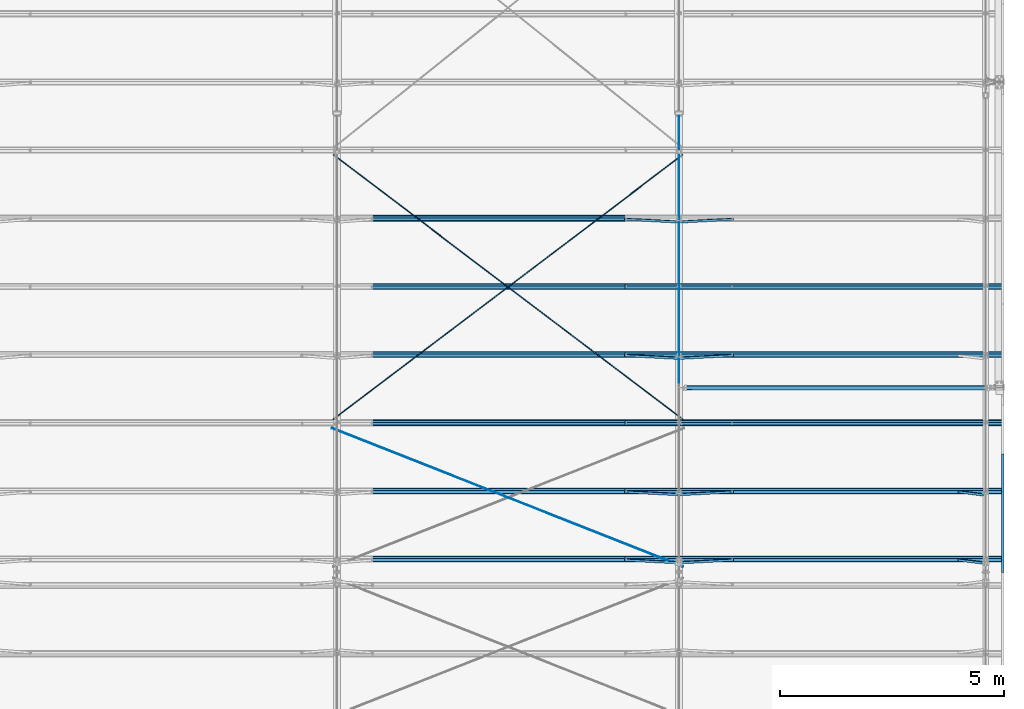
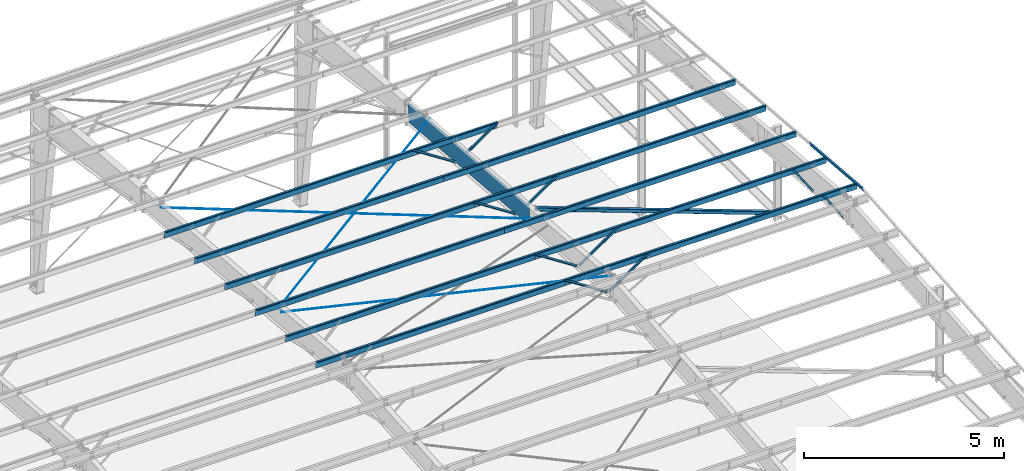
# One storey, part 19 of 185: 16 beams, 11 members, 27 elements without a shape of their own.
"""IFC2X3 building model written with IfcOpenShell, lengths in millimetres."""

import ifcopenshell
import ifcopenshell.guid

model = None  # the IFC model being written
_history = None  # IfcOwnerHistory: only IFC2X3 demands one
_inside = {}  # id of a spatial element -> (the spatial element, [elements in it])
_under = {}  # id of a project, library or spatial element -> (it, [spatial elements below it])
_declared = {}  # id of a project -> (the project, [libraries it declares])
_typed = {}  # id of a type object -> (the type object, [elements of that type])
_made_of = {}  # id of a material, layer set ... -> (it, [elements and type objects made of it])


def new_model(schema):
    """Start an empty IFC model of exactly this schema.

    Asked for "IFC4X3", IfcOpenShell would pick the latest addendum, in which some entities
    have other attributes; the version numbers below select the first issue.
    IFC2X3 requires an IfcOwnerHistory on every rooted entity: one is made here for all.
    """
    global model, _history
    if schema == "IFC4X3":
        model = ifcopenshell.file(schema_version=(4, 3, 0, 0))
    else:
        model = ifcopenshell.file(schema=schema)
    _inside.clear()
    _under.clear()
    _declared.clear()
    _typed.clear()
    _made_of.clear()
    _history = None
    if model.schema == "IFC2X3":
        org = make("IfcOrganization", Name="unknown")
        user = make(
            "IfcPersonAndOrganization",
            ThePerson=make("IfcPerson", FamilyName="unknown"),
            TheOrganization=org,
        )
        app = make(
            "IfcApplication",
            ApplicationDeveloper=org,
            Version="unknown",
            ApplicationFullName="unknown",
            ApplicationIdentifier="unknown",
        )
        _history = make(
            "IfcOwnerHistory",
            OwningUser=user,
            OwningApplication=app,
            ChangeAction="ADDED",
            CreationDate=0,
        )
    return model


def make(cls, **values):
    """One entity of the class cls with the attributes given. An attribute that is None is left unset."""
    return model.create_entity(
        cls, **{name: value for name, value in values.items() if value is not None}
    )


def rooted(cls, **values):
    """An entity with a GlobalId (a new one), such as an element, a storey or a relation."""
    return make(cls, GlobalId=ifcopenshell.guid.new(), OwnerHistory=_history, **values)


def si_unit(unit_type, name, prefix=None):
    """IfcSIUnit, for example si_unit("LENGTHUNIT", "METRE", prefix="MILLI")."""
    return make("IfcSIUnit", UnitType=unit_type, Prefix=prefix, Name=name)


def assignment(units):
    """IfcUnitAssignment: the units of a project."""
    return None if units is None else make("IfcUnitAssignment", Units=units)


def point(xyz):
    """IfcCartesianPoint."""
    return None if xyz is None else make("IfcCartesianPoint", Coordinates=xyz)


def direction(xyz):
    """IfcDirection."""
    return None if xyz is None else make("IfcDirection", DirectionRatios=xyz)


def frame(location, z_axis=None, x_axis=None):
    """IfcAxis2Placement3D, a coordinate frame: its origin and axes. An axis left out is left unset."""
    return make(
        "IfcAxis2Placement3D",
        Location=point(location),
        Axis=direction(z_axis),
        RefDirection=direction(x_axis),
    )


def frame_2d(location, x_axis=None):
    """IfcAxis2Placement2D, a coordinate frame in the plane: its origin and x axis."""
    return make(
        "IfcAxis2Placement2D", Location=point(location), RefDirection=direction(x_axis)
    )


def origin_with_axes():
    """The frame at (0, 0, 0) with the z axis (0, 0, 1) and the x axis (1, 0, 0) written out."""
    return frame((0.0, 0.0, 0.0), z_axis=(0.0, 0.0, 1.0), x_axis=(1.0, 0.0, 0.0))


def origin_2d_with_axis():
    """The frame at (0, 0) in the plane with the x axis (1, 0) written out."""
    return frame_2d((0.0, 0.0), x_axis=(1.0, 0.0))


def place(relative_to, where):
    """IfcLocalPlacement: puts the frame where relative to a parent placement (None: the world)."""
    return make(
        "IfcLocalPlacement", PlacementRelTo=relative_to, RelativePlacement=where
    )


def context(
    kind, dimensions, precision=None, world=None, true_north=None, identifier=None
):
    """IfcGeometricRepresentationContext, for example the 3D "Model" context."""
    return make(
        "IfcGeometricRepresentationContext",
        ContextIdentifier=identifier,
        ContextType=kind,
        CoordinateSpaceDimension=dimensions,
        Precision=precision,
        WorldCoordinateSystem=world,
        TrueNorth=true_north,
    )


def subcontext(parent, identifier, kind, view, scale=None):
    """IfcGeometricRepresentationSubContext, for example "Body" below "Model"."""
    return make(
        "IfcGeometricRepresentationSubContext",
        ContextIdentifier=identifier,
        ContextType=kind,
        ParentContext=parent,
        TargetScale=scale,
        TargetView=view,
    )


def project(units=None, contexts=None):
    """IfcProject with its units and contexts."""
    return rooted(
        "IfcProject",
        Name="project",
        RepresentationContexts=contexts,
        UnitsInContext=assignment(units),
    )


def spatial(cls, under=None, at=None, **own):
    """A site, building, storey or space (cls), placed at a placement, below another one or the project."""
    s = rooted(cls, ObjectPlacement=at, **own)
    if under is not None:
        _under.setdefault(under.id(), (under, []))[1].append(s)
    return s


def polyline(points):
    """IfcPolyline through the points."""
    return make("IfcPolyline", Points=[point(p) for p in points])


def profile(cls, at=None, kind="AREA", **sizes):
    """A parametric profile (cls). Its sizes go by their IFC names, for example OverallWidth=200.0."""
    return make(cls, ProfileType=kind, Position=at, **sizes)


def rectangle(**sizes):
    """IfcRectangleProfileDef."""
    return profile("IfcRectangleProfileDef", **sizes)


def hollow_rectangle(**sizes):
    """IfcRectangleHollowProfileDef."""
    return profile("IfcRectangleHollowProfileDef", **sizes)


def circle(**sizes):
    """IfcCircleProfileDef."""
    return profile("IfcCircleProfileDef", **sizes)


def outline(outer, holes=None, kind="AREA"):
    """IfcArbitraryClosedProfileDef: a profile drawn as a closed curve; with holes, ...WithVoids."""
    if holes is None:
        return make("IfcArbitraryClosedProfileDef", ProfileType=kind, OuterCurve=outer)
    return make(
        "IfcArbitraryProfileDefWithVoids",
        ProfileType=kind,
        OuterCurve=outer,
        InnerCurves=holes,
    )


def extrude(swept, where, along, depth):
    """IfcExtrudedAreaSolid: the profile swept, set in the frame where, extruded along a direction by depth."""
    return make(
        "IfcExtrudedAreaSolid",
        SweptArea=swept,
        Position=where,
        ExtrudedDirection=direction(along),
        Depth=depth,
    )


def clip(a, b, op="DIFFERENCE"):
    """IfcBooleanClippingResult: the solid a cut by the half space b."""
    return make(
        "IfcBooleanClippingResult", Operator=op, FirstOperand=a, SecondOperand=b
    )


def halfspace(plane, agree):
    """IfcHalfSpaceSolid: all space on one side of the plane z = 0 of the frame plane."""
    return make(
        "IfcHalfSpaceSolid",
        BaseSurface=make("IfcPlane", Position=plane),
        AgreementFlag=agree,
    )


def shape(context_of_items, identifier, shape_type, items):
    """IfcShapeRepresentation: the items that make up one representation, for example the "Body"."""
    return make(
        "IfcShapeRepresentation",
        ContextOfItems=context_of_items,
        RepresentationIdentifier=identifier,
        RepresentationType=shape_type,
        Items=items,
    )


def material(Name=None, Category=None):
    """IfcMaterial."""
    return make("IfcMaterial", Name=Name, Category=Category)


def made_of(thing, what):
    """Note that an element or type object is made of a material, layer set ...; save() writes the relation."""
    if what is not None:
        _made_of.setdefault(what.id(), (what, []))[1].append(thing)
    return thing


def type_object(cls, material=None, **own):
    """A type object (cls), such as IfcWallType, which elements share."""
    return made_of(rooted(cls, **own), material)


def element(
    cls,
    number,
    at=None,
    inside=None,
    cuts=None,
    type_object=None,
    material=None,
    context=None,
    identifier="Body",
    shape_type=None,
    held_by="IfcProductDefinitionShape",
    body=None,
    shapes=None,
    **own,
):
    """One element of the class cls, such as IfcWall. Its Tag is "e" and its number.

    at: its placement. inside: the storey or other place that contains it. cuts: it is an
    opening in that element (IfcRelVoidsElement). A single representation is given by context,
    identifier, shape_type and body (its items); several are given by shapes. held_by: the class
    of the entity that holds the representations. save() writes the other relations.
    """
    e = rooted(cls, Tag="e%d" % number, ObjectPlacement=at, **own)
    if body is not None:
        shapes = [shape(context, identifier, shape_type, body)]
    if shapes is not None:
        e.Representation = make(held_by, Representations=shapes)
    if inside is not None:
        _inside.setdefault(inside.id(), (inside, []))[1].append(e)
    if cuts is not None:
        rooted(
            "IfcRelVoidsElement", RelatingBuildingElement=cuts, RelatedOpeningElement=e
        )
    if type_object is not None:
        _typed.setdefault(type_object.id(), (type_object, []))[1].append(e)
    return made_of(e, material)


def aggregate(whole, parts):
    """IfcRelAggregates: a whole, such as a stair, and the parts it consists of."""
    return rooted("IfcRelAggregates", RelatingObject=whole, RelatedObjects=parts)


def save(model, path):
    """Write the relations noted so far, then the file.

    IfcRelAggregates (storeys below a building ...), IfcRelContainedInSpatialStructure (elements
    in a storey), IfcRelDefinesByType, IfcRelAssociatesMaterial and IfcRelDeclares: one each for
    every whole, place, type object, material and project.
    """
    for whole, parts in _under.values():
        aggregate(whole, parts)
    for where, things in _inside.values():
        rooted(
            "IfcRelContainedInSpatialStructure",
            RelatedElements=things,
            RelatingStructure=where,
        )
    for kind, things in _typed.values():
        rooted("IfcRelDefinesByType", RelatedObjects=things, RelatingType=kind)
    for what, things in _made_of.values():
        rooted("IfcRelAssociatesMaterial", RelatedObjects=things, RelatingMaterial=what)
    for by, libraries in _declared.values():
        rooted("IfcRelDeclares", RelatingContext=by, RelatedDefinitions=libraries)
    model.write(path)


model = new_model("IFC2X3")

# Units and contexts
model_context = context("Model", 3, precision=1e-05, world=origin_with_axes())
body_context = subcontext(model_context, "Body", "Model", "MODEL_VIEW")
ifc_project = project(units=[si_unit("LENGTHUNIT", "METRE", prefix="MILLI"), si_unit("AREAUNIT", "SQUARE_METRE"), si_unit("VOLUMEUNIT", "CUBIC_METRE"), si_unit("MASSUNIT", "GRAM", prefix="KILO"), si_unit("TIMEUNIT", "SECOND"), si_unit("PLANEANGLEUNIT", "RADIAN"), si_unit("SOLIDANGLEUNIT", "STERADIAN"), si_unit("THERMODYNAMICTEMPERATUREUNIT", "DEGREE_CELSIUS"), si_unit("LUMINOUSINTENSITYUNIT", "LUMEN")], contexts=[model_context])

# Site, building, storey
site_placement = place(None, origin_with_axes())
site = spatial("IfcSite", under=ifc_project, at=site_placement, Name="Undefined", CompositionType="ELEMENT")
building_placement = place(site_placement, origin_with_axes())
building = spatial("IfcBuilding", under=site, at=building_placement, Name="Undefined", CompositionType="ELEMENT")
storey_placement = place(building_placement, origin_with_axes())
storey = spatial("IfcBuildingStorey", under=building, at=storey_placement, Name="Undefined", CompositionType="ELEMENT", Elevation=0.0)

# Assembly, beam
assembly_1_placement = place(storey_placement, origin_with_axes())
assembly_1 = element("IfcElementAssembly", 1, at=assembly_1_placement, inside=storey, Name="Steel Assembly", AssemblyPlace="NOTDEFINED", PredefinedType="RIGID_FRAME")
ifc_material = material(Name="STEEL/55")
beam_type_1 = type_object("IfcBeamType", Name="8Z15", PredefinedType="NOTDEFINED")
beam_1_placement = place(assembly_1_placement, frame((37719.0, 23890.9879796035, 6670.13216897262), z_axis=(0.0, -0.0830454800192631, -0.996545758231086), x_axis=(-1.0, 0.0, 0.0)))
beam_1 = element("IfcBeam", 2, at=beam_1_placement, type_object=beam_type_1, material=ifc_material, Name="Purlin", ObjectType="8Z15", context=body_context, shape_type="Clipping", body=[
    clip(clip(extrude(outline(polyline([(-75.75, 87.0100021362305), (-63.5, 101.599998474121), (1.5900000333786, 101.599998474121), (1.5900000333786, -98.4199981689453), (62.0200004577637, -98.4199981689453), (73.3099975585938, -84.9700012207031), (75.7399978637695, -87.0100021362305), (63.5, -101.599998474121), (-1.5900000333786, -101.599998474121), (-1.5900000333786, 98.4199981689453), (-62.0200004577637, 98.4199981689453), (-73.3099975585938, 84.9700012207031), (-75.75, 87.0100021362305)])), frame((8420.1, 0.0, 0.0), z_axis=(-1.0, 0.0, 0.0), x_axis=(0.0, -1.0, 0.0)), (0.0, 0.0, 1.0), 9626.6), halfspace(frame((8420.1, 2.91402102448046e-09, -101.600000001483), z_axis=(-1.0, 0.0, 0.0), x_axis=(0.0, 0.0, 1.0)), True)), halfspace(frame((-1206.5, 2.91402102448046e-09, -101.600000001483), z_axis=(-1.0, 0.0, 0.0), x_axis=(0.0, 0.0, 1.0)), False)),
])
aggregate(assembly_1, [beam_1])

assembly_2_placement = place(storey_placement, origin_with_axes())
assembly_2 = element("IfcElementAssembly", 3, at=assembly_2_placement, inside=storey, Name="Steel Assembly", AssemblyPlace="NOTDEFINED", PredefinedType="RIGID_FRAME")
beam_2_placement = place(assembly_2_placement, frame((37719.0, 22372.2522440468, 6796.69348052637), z_axis=(0.0, -0.0830454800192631, -0.996545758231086), x_axis=(-1.0, 0.0, 0.0)))
beam_2 = element("IfcBeam", 4, at=beam_2_placement, type_object=beam_type_1, material=ifc_material, Name="Purlin", ObjectType="8Z15", context=body_context, shape_type="Clipping", body=[
    clip(clip(extrude(outline(polyline([(-75.75, 87.0100021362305), (-63.5, 101.599998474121), (1.5900000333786, 101.599998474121), (1.5900000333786, -98.4199981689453), (62.0200004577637, -98.4199981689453), (73.3099975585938, -84.9700012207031), (75.7399978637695, -87.0100021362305), (63.5, -101.599998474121), (-1.5900000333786, -101.599998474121), (-1.5900000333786, 98.4199981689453), (-62.0200004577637, 98.4199981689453), (-73.3099975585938, 84.9700012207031), (-75.75, 87.0100021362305)])), frame((8420.1, 0.0, 0.0), z_axis=(-1.0, 0.0, 0.0), x_axis=(0.0, -1.0, 0.0)), (0.0, 0.0, 1.0), 9626.6), halfspace(frame((8420.1, 2.91402102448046e-09, -101.600000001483), z_axis=(-1.0, 0.0, 0.0), x_axis=(0.0, 0.0, 1.0)), True)), halfspace(frame((-1206.5, 2.91402102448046e-09, -101.600000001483), z_axis=(-1.0, 0.0, 0.0), x_axis=(0.0, 0.0, 1.0)), False)),
])
aggregate(assembly_2, [beam_2])

assembly_3_placement = place(storey_placement, origin_with_axes())
assembly_3 = element("IfcElementAssembly", 5, at=assembly_3_placement, inside=storey, Name="Steel Assembly", AssemblyPlace="NOTDEFINED", PredefinedType="RIGID_FRAME")
beam_3_placement = place(assembly_3_placement, frame((37719.0, 20853.51650849, 6923.25479208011), z_axis=(0.0, -0.0830454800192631, -0.996545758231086), x_axis=(-1.0, 0.0, 0.0)))
beam_3 = element("IfcBeam", 6, at=beam_3_placement, type_object=beam_type_1, material=ifc_material, Name="Purlin", ObjectType="8Z15", context=body_context, shape_type="Clipping", body=[
    clip(clip(extrude(outline(polyline([(-75.75, 87.0100021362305), (-63.5, 101.599998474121), (1.5900000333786, 101.599998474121), (1.5900000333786, -98.4199981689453), (62.0200004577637, -98.4199981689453), (73.3099975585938, -84.9700012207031), (75.7399978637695, -87.0100021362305), (63.5, -101.599998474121), (-1.5900000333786, -101.599998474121), (-1.5900000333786, 98.4199981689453), (-62.0200004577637, 98.4199981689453), (-73.3099975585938, 84.9700012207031), (-75.75, 87.0100021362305)])), frame((8420.1, 0.0, 0.0), z_axis=(-1.0, 0.0, 0.0), x_axis=(0.0, -1.0, 0.0)), (0.0, 0.0, 1.0), 9626.6), halfspace(frame((8420.1, 2.91402102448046e-09, -101.600000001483), z_axis=(-1.0, 0.0, 0.0), x_axis=(0.0, 0.0, 1.0)), True)), halfspace(frame((-1206.5, 2.91402102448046e-09, -101.600000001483), z_axis=(-1.0, 0.0, 0.0), x_axis=(0.0, 0.0, 1.0)), False)),
])
aggregate(assembly_3, [beam_3])

assembly_4_placement = place(storey_placement, origin_with_axes())
assembly_4 = element("IfcElementAssembly", 7, at=assembly_4_placement, inside=storey, Name="Steel Assembly", AssemblyPlace="NOTDEFINED", PredefinedType="RIGID_FRAME")
beam_4_placement = place(assembly_4_placement, frame((37719.0, 19334.7807729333, 7049.81610363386), z_axis=(0.0, -0.0830454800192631, -0.996545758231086), x_axis=(-1.0, 0.0, 0.0)))
beam_4 = element("IfcBeam", 8, at=beam_4_placement, type_object=beam_type_1, material=ifc_material, Name="Purlin", ObjectType="8Z15", context=body_context, shape_type="Clipping", body=[
    clip(clip(extrude(outline(polyline([(-75.75, 87.0100021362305), (-63.5, 101.599998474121), (1.5900000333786, 101.599998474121), (1.5900000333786, -98.4199981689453), (62.0200004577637, -98.4199981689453), (73.3099975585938, -84.9700012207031), (75.7399978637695, -87.0100021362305), (63.5, -101.599998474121), (-1.5900000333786, -101.599998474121), (-1.5900000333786, 98.4199981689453), (-62.0200004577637, 98.4199981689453), (-73.3099975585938, 84.9700012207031), (-75.75, 87.0100021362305)])), frame((8420.1, 0.0, 0.0), z_axis=(-1.0, 0.0, 0.0), x_axis=(0.0, -1.0, 0.0)), (0.0, 0.0, 1.0), 9626.6), halfspace(frame((8420.1, 2.91402102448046e-09, -101.600000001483), z_axis=(-1.0, 0.0, 0.0), x_axis=(0.0, 0.0, 1.0)), True)), halfspace(frame((-1206.5, 2.91402102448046e-09, -101.600000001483), z_axis=(-1.0, 0.0, 0.0), x_axis=(0.0, 0.0, 1.0)), False)),
])
aggregate(assembly_4, [beam_4])

assembly_5_placement = place(storey_placement, origin_with_axes())
assembly_5 = element("IfcElementAssembly", 9, at=assembly_5_placement, inside=storey, Name="Steel Assembly", AssemblyPlace="NOTDEFINED", PredefinedType="RIGID_FRAME")
beam_5_placement = place(assembly_5_placement, frame((37719.0, 17816.0450373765, 7176.3774151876), z_axis=(0.0, -0.0830454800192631, -0.996545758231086), x_axis=(-1.0, 0.0, 0.0)))
beam_5 = element("IfcBeam", 10, at=beam_5_placement, type_object=beam_type_1, material=ifc_material, Name="Purlin", ObjectType="8Z15", context=body_context, shape_type="Clipping", body=[
    clip(clip(extrude(outline(polyline([(-75.75, 87.0100021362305), (-63.5, 101.599998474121), (1.5900000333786, 101.599998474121), (1.5900000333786, -98.4199981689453), (62.0200004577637, -98.4199981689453), (73.3099975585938, -84.9700012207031), (75.7399978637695, -87.0100021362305), (63.5, -101.599998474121), (-1.5900000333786, -101.599998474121), (-1.5900000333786, 98.4199981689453), (-62.0200004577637, 98.4199981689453), (-73.3099975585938, 84.9700012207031), (-75.75, 87.0100021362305)])), frame((8420.1, 0.0, 0.0), z_axis=(-1.0, 0.0, 0.0), x_axis=(0.0, -1.0, 0.0)), (0.0, 0.0, 1.0), 9626.6), halfspace(frame((8420.1, 2.91402102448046e-09, -101.600000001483), z_axis=(-1.0, 0.0, 0.0), x_axis=(0.0, 0.0, 1.0)), True)), halfspace(frame((-1206.5, 2.91402102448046e-09, -101.600000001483), z_axis=(-1.0, 0.0, 0.0), x_axis=(0.0, 0.0, 1.0)), False)),
])
aggregate(assembly_5, [beam_5])

assembly_6_placement = place(storey_placement, origin_with_axes())
assembly_6 = element("IfcElementAssembly", 11, at=assembly_6_placement, inside=storey, Name="Steel Assembly", AssemblyPlace="NOTDEFINED", PredefinedType="RIGID_FRAME")
beam_6_placement = place(assembly_6_placement, frame((37719.0, 16297.3093018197, 7302.93872674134), z_axis=(0.0, -0.0830454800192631, -0.996545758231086), x_axis=(-1.0, 0.0, 0.0)))
beam_6 = element("IfcBeam", 12, at=beam_6_placement, type_object=beam_type_1, material=ifc_material, Name="Purlin", ObjectType="8Z15", context=body_context, shape_type="Clipping", body=[
    clip(clip(extrude(outline(polyline([(-75.75, 87.0100021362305), (-63.5, 101.599998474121), (1.5900000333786, 101.599998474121), (1.5900000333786, -98.4199981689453), (62.0200004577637, -98.4199981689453), (73.3099975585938, -84.9700012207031), (75.7399978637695, -87.0100021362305), (63.5, -101.599998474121), (-1.5900000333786, -101.599998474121), (-1.5900000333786, 98.4199981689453), (-62.0200004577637, 98.4199981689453), (-73.3099975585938, 84.9700012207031), (-75.75, 87.0100021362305)])), frame((8420.1, 0.0, 0.0), z_axis=(-1.0, 0.0, 0.0), x_axis=(0.0, -1.0, 0.0)), (0.0, 0.0, 1.0), 9626.6), halfspace(frame((8420.1, 2.91402102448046e-09, -101.600000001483), z_axis=(-1.0, 0.0, 0.0), x_axis=(0.0, 0.0, 1.0)), True)), halfspace(frame((-1206.5, 2.91402102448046e-09, -101.600000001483), z_axis=(-1.0, 0.0, 0.0), x_axis=(0.0, 0.0, 1.0)), False)),
])
aggregate(assembly_6, [beam_6])

# Assembly, member
assembly_7_placement = place(storey_placement, origin_with_axes())
assembly_7 = element("IfcElementAssembly", 13, at=assembly_7_placement, inside=storey, Name="Steel Assembly", AssemblyPlace="NOTDEFINED", PredefinedType="RIGID_FRAME")
member_type_1 = type_object("IfcMemberType", Name="HSS4X4X1/4", PredefinedType="NOTDEFINED")
member_1_placement = place(assembly_7_placement, frame((44609.0741626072, 20110.8686444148, 4286.09659466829), z_axis=(0.344537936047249, -0.000139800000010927, 0.938772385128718), x_axis=(-0.938772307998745, 0.000380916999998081, 0.34453796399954)))
member_1 = element("IfcMember", 14, at=member_1_placement, type_object=member_type_1, material=ifc_material, Name="PIPE", ObjectType="HSS4X4X1/4", context=body_context, shape_type="SweptSolid", body=[
    extrude(hollow_rectangle(XDim=101.6, YDim=101.6, WallThickness=6.35, InnerFilletRadius=6.3499, OuterFilletRadius=12.6999, at=origin_2d_with_axis()), frame((7178.93714161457, -1.61829013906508e-16, -3.9851106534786e-13), z_axis=(-1.0, 0.0, 0.0), x_axis=(0.0, -1.0, 0.0)), (0.0, 0.0, 1.0), 7178.9),
])
aggregate(assembly_7, [member_1])

assembly_8_placement = place(storey_placement, origin_with_axes())
assembly_8 = element("IfcElementAssembly", 15, at=assembly_8_placement, inside=storey, Name="Steel Assembly", AssemblyPlace="NOTDEFINED", PredefinedType="RIGID_FRAME")
member_type_2 = type_object("IfcMemberType", Name="FB-", PredefinedType="NOTDEFINED")
member_2_placement = place(assembly_8_placement, frame((37757.0873204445, 23833.3687176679, 5978.70102520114), z_axis=(-0.530152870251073, 0.0704144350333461, 0.844973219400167), x_axis=(0.847902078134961, 0.0440268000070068, 0.528321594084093)))
member_2 = element("IfcMember", 16, at=member_2_placement, type_object=member_type_2, material=ifc_material, Name="2X2 FLANGE BRACE X 48", ObjectType="FB-", context=body_context, shape_type="SweptSolid", body=[
    extrude(outline(polyline([(1.5900000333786, 1.59000003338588), (50.7999992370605, 1.59000003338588), (50.7999992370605, 7.27595761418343e-12), (0.0, 0.0), (0.0, 50.7999992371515), (1.5900000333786, 50.7999992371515), (1.5900000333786, 1.59000003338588)])), frame((1389.32938756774, -1.81898940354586e-12, 7.71232737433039e-14), z_axis=(-1.0, 0.0, 0.0), x_axis=(0.0, -1.0, 0.0)), (0.0, 0.0, 1.0), 1389.3),
])
aggregate(assembly_8, [member_2])

assembly_9_placement = place(storey_placement, origin_with_axes())
assembly_9 = element("IfcElementAssembly", 17, at=assembly_9_placement, inside=storey, Name="Steel Assembly", AssemblyPlace="NOTDEFINED", PredefinedType="RIGID_FRAME")
member_3_placement = place(assembly_9_placement, frame((37757.0873204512, 20795.8972465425, 6231.82364781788), z_axis=(-0.530152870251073, 0.0704144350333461, 0.844973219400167), x_axis=(0.847902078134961, 0.0440268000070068, 0.528321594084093)))
member_3 = element("IfcMember", 18, at=member_3_placement, type_object=member_type_2, material=ifc_material, Name="2X2 FLANGE BRACE X 48", ObjectType="FB-", context=body_context, shape_type="SweptSolid", body=[
    extrude(outline(polyline([(1.5900000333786, 1.59000003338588), (50.7999992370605, 1.59000003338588), (50.7999992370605, 7.27595761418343e-12), (0.0, 0.0), (0.0, 50.7999992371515), (1.5900000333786, 50.7999992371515), (1.5900000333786, 1.59000003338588)])), frame((1389.32938756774, -1.81898940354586e-12, 7.71232737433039e-14), z_axis=(-1.0, 0.0, 0.0), x_axis=(0.0, -1.0, 0.0)), (0.0, 0.0, 1.0), 1389.3),
])
aggregate(assembly_9, [member_3])

assembly_10_placement = place(storey_placement, origin_with_axes())
assembly_10 = element("IfcElementAssembly", 19, at=assembly_10_placement, inside=storey, Name="Steel Assembly", AssemblyPlace="NOTDEFINED", PredefinedType="RIGID_FRAME")
member_4_placement = place(assembly_10_placement, frame((37757.0873204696, 17758.4257754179, 6484.94627041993), z_axis=(-0.530152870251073, 0.0704144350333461, 0.844973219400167), x_axis=(0.847902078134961, 0.0440268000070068, 0.528321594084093)))
member_4 = element("IfcMember", 20, at=member_4_placement, type_object=member_type_2, material=ifc_material, Name="2X2 FLANGE BRACE X 48", ObjectType="FB-", context=body_context, shape_type="SweptSolid", body=[
    extrude(outline(polyline([(1.5900000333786, 1.59000003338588), (50.7999992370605, 1.59000003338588), (50.7999992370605, 7.27595761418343e-12), (0.0, 0.0), (0.0, 50.7999992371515), (1.5900000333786, 50.7999992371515), (1.5900000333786, 1.59000003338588)])), frame((1389.32938756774, -1.81898940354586e-12, 7.71232737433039e-14), z_axis=(-1.0, 0.0, 0.0), x_axis=(0.0, -1.0, 0.0)), (0.0, 0.0, 1.0), 1389.3),
])
aggregate(assembly_10, [member_4])

assembly_11_placement = place(storey_placement, origin_with_axes())
assembly_11 = element("IfcElementAssembly", 21, at=assembly_11_placement, inside=storey, Name="Steel Assembly", AssemblyPlace="NOTDEFINED", PredefinedType="RIGID_FRAME")
member_5_placement = place(assembly_11_placement, frame((37757.087320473, 16239.6900398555, 6611.50758172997), z_axis=(-0.530152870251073, 0.0704144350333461, 0.844973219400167), x_axis=(0.847902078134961, 0.0440268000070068, 0.528321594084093)))
member_5 = element("IfcMember", 22, at=member_5_placement, type_object=member_type_2, material=ifc_material, Name="2X2 FLANGE BRACE X 48", ObjectType="FB-", context=body_context, shape_type="SweptSolid", body=[
    extrude(outline(polyline([(1.5900000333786, 1.59000003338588), (50.7999992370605, 1.59000003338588), (50.7999992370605, 7.27595761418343e-12), (0.0, 0.0), (0.0, 50.7999992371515), (1.5900000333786, 50.7999992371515), (1.5900000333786, 1.59000003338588)])), frame((1389.32938756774, -1.81898940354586e-12, 7.71232737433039e-14), z_axis=(-1.0, 0.0, 0.0), x_axis=(0.0, -1.0, 0.0)), (0.0, 0.0, 1.0), 1389.3),
])
aggregate(assembly_11, [member_5])

assembly_12_placement = place(storey_placement, origin_with_axes())
assembly_12 = element("IfcElementAssembly", 23, at=assembly_12_placement, inside=storey, Name="Steel Assembly", AssemblyPlace="NOTDEFINED", PredefinedType="RIGID_FRAME")
member_6_placement = place(assembly_12_placement, frame((44498.345666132, 16231.3680246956, 6511.64339957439), z_axis=(0.0, -0.996545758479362, 0.0830454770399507), x_axis=(-0.553483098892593, 0.0691652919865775, 0.82998350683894)))
member_6 = element("IfcMember", 24, at=member_6_placement, type_object=member_type_2, material=ifc_material, Name="2X2 FLANGE BRACE X 48", ObjectType="FB-", context=body_context, shape_type="SweptSolid", body=[
    extrude(outline(polyline([(1.5900000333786, 1.59000003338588), (50.7999992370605, 1.59000003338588), (50.7999992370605, 7.27595761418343e-12), (0.0, 0.0), (0.0, 50.7999992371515), (1.5900000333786, 50.7999992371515), (1.5900000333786, 1.59000003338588)])), frame((1022.90167929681, -5.11529800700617e-13, 1.83318501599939e-12), z_axis=(-1.0, 0.0, 0.0), x_axis=(0.0, -1.0, 0.0)), (0.0, 0.0, 1.0), 1022.9),
])
aggregate(assembly_12, [member_6])

assembly_13_placement = place(storey_placement, origin_with_axes())
assembly_13 = element("IfcElementAssembly", 25, at=assembly_13_placement, inside=storey, Name="Steel Assembly", AssemblyPlace="NOTDEFINED", PredefinedType="RIGID_FRAME")
member_7_placement = place(assembly_13_placement, frame((44498.3456661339, 17750.1037602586, 6385.08208826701), z_axis=(0.0, -0.996545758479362, 0.0830454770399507), x_axis=(-0.553483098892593, 0.0691652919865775, 0.82998350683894)))
member_7 = element("IfcMember", 26, at=member_7_placement, type_object=member_type_2, material=ifc_material, Name="2X2 FLANGE BRACE X 48", ObjectType="FB-", context=body_context, shape_type="SweptSolid", body=[
    extrude(outline(polyline([(1.5900000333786, 1.59000003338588), (50.7999992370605, 1.59000003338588), (50.7999992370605, 7.27595761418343e-12), (0.0, 0.0), (0.0, 50.7999992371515), (1.5900000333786, 50.7999992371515), (1.5900000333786, 1.59000003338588)])), frame((1022.90167929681, -5.11529800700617e-13, 1.83318501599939e-12), z_axis=(-1.0, 0.0, 0.0), x_axis=(0.0, -1.0, 0.0)), (0.0, 0.0, 1.0), 1022.9),
])
aggregate(assembly_13, [member_7])

assembly_14_placement = place(storey_placement, origin_with_axes())
assembly_14 = element("IfcElementAssembly", 27, at=assembly_14_placement, inside=storey, Name="Steel Assembly", AssemblyPlace="NOTDEFINED", PredefinedType="RIGID_FRAME")
member_8_placement = place(assembly_14_placement, frame((37680.9126795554, 23833.3687176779, 5978.70102520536), z_axis=(0.0, -0.996545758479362, 0.0830454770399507), x_axis=(-0.847902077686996, 0.0440267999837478, 0.52832159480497)))
member_8 = element("IfcMember", 28, at=member_8_placement, type_object=member_type_2, material=ifc_material, Name="2X2 FLANGE BRACE X 48", ObjectType="FB-", context=body_context, shape_type="SweptSolid", body=[
    extrude(outline(polyline([(1.5900000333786, 1.59000003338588), (50.7999992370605, 1.59000003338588), (50.7999992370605, 7.27595761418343e-12), (0.0, 0.0), (0.0, 50.7999992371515), (1.5900000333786, 50.7999992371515), (1.5900000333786, 1.59000003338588)])), frame((1389.32938756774, -1.81898940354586e-12, 7.71232737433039e-14), z_axis=(-1.0, 0.0, 0.0), x_axis=(0.0, -1.0, 0.0)), (0.0, 0.0, 1.0), 1389.3),
])
aggregate(assembly_14, [member_8])

assembly_15_placement = place(storey_placement, origin_with_axes())
assembly_15 = element("IfcElementAssembly", 29, at=assembly_15_placement, inside=storey, Name="Steel Assembly", AssemblyPlace="NOTDEFINED", PredefinedType="RIGID_FRAME")
member_9_placement = place(assembly_15_placement, frame((37680.9126795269, 16239.6900398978, 6611.50758174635), z_axis=(0.0, -0.996545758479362, 0.0830454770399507), x_axis=(-0.847902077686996, 0.0440267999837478, 0.52832159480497)))
member_9 = element("IfcMember", 30, at=member_9_placement, type_object=member_type_2, material=ifc_material, Name="2X2 FLANGE BRACE X 48", ObjectType="FB-", context=body_context, shape_type="SweptSolid", body=[
    extrude(outline(polyline([(1.5900000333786, 1.59000003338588), (50.7999992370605, 1.59000003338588), (50.7999992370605, 7.27595761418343e-12), (0.0, 0.0), (0.0, 50.7999992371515), (1.5900000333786, 50.7999992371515), (1.5900000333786, 1.59000003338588)])), frame((1389.32938756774, -1.81898940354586e-12, 7.71232737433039e-14), z_axis=(-1.0, 0.0, 0.0), x_axis=(0.0, -1.0, 0.0)), (0.0, 0.0, 1.0), 1389.3),
])
aggregate(assembly_15, [member_9])

assembly_16_placement = place(storey_placement, origin_with_axes())
assembly_16 = element("IfcElementAssembly", 31, at=assembly_16_placement, inside=storey, Name="Steel Assembly", AssemblyPlace="NOTDEFINED", PredefinedType="RIGID_FRAME")
member_10_placement = place(assembly_16_placement, frame((37680.9126795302, 17758.4257754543, 6484.9462704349), z_axis=(0.0, -0.996545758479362, 0.0830454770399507), x_axis=(-0.847902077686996, 0.0440267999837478, 0.52832159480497)))
member_10 = element("IfcMember", 32, at=member_10_placement, type_object=member_type_2, material=ifc_material, Name="2X2 FLANGE BRACE X 48", ObjectType="FB-", context=body_context, shape_type="SweptSolid", body=[
    extrude(outline(polyline([(1.5900000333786, 1.59000003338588), (50.7999992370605, 1.59000003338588), (50.7999992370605, 7.27595761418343e-12), (0.0, 0.0), (0.0, 50.7999992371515), (1.5900000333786, 50.7999992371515), (1.5900000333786, 1.59000003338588)])), frame((1389.32938756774, -1.81898940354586e-12, 7.71232737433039e-14), z_axis=(-1.0, 0.0, 0.0), x_axis=(0.0, -1.0, 0.0)), (0.0, 0.0, 1.0), 1389.3),
])
aggregate(assembly_16, [member_10])

assembly_17_placement = place(storey_placement, origin_with_axes())
assembly_17 = element("IfcElementAssembly", 33, at=assembly_17_placement, inside=storey, Name="Steel Assembly", AssemblyPlace="NOTDEFINED", PredefinedType="RIGID_FRAME")
member_11_placement = place(assembly_17_placement, frame((37680.9126795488, 20795.8972465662, 6231.82364782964), z_axis=(0.0, -0.996545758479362, 0.0830454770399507), x_axis=(-0.847902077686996, 0.0440267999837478, 0.52832159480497)))
member_11 = element("IfcMember", 34, at=member_11_placement, type_object=member_type_2, material=ifc_material, Name="2X2 FLANGE BRACE X 48", ObjectType="FB-", context=body_context, shape_type="SweptSolid", body=[
    extrude(outline(polyline([(1.5900000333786, 1.59000003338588), (50.7999992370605, 1.59000003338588), (50.7999992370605, 7.27595761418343e-12), (0.0, 0.0), (0.0, 50.7999992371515), (1.5900000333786, 50.7999992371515), (1.5900000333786, 1.59000003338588)])), frame((1389.32938756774, -1.81898940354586e-12, 7.71232737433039e-14), z_axis=(-1.0, 0.0, 0.0), x_axis=(0.0, -1.0, 0.0)), (0.0, 0.0, 1.0), 1389.3),
])
aggregate(assembly_17, [member_11])

# Assembly, beam
assembly_18_placement = place(storey_placement, origin_with_axes())
assembly_18 = element("IfcElementAssembly", 35, at=assembly_18_placement, inside=storey, Name="Steel Assembly", AssemblyPlace="NOTDEFINED", PredefinedType="RIGID_FRAME")
beam_type_2 = type_object("IfcBeamType", Name="RA-1", PredefinedType="NOTDEFINED")
beam_7_placement = place(assembly_18_placement, frame((44958.0, 16001.9995754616, 7429.50003798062), z_axis=(0.0, -0.0830701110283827, -0.996543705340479), x_axis=(0.0, 0.99654370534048, -0.0830701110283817)))
beam_7 = element("IfcBeam", 36, at=beam_7_placement, type_object=beam_type_2, material=ifc_material, Name="STANDARD RAKE ANGLE", ObjectType="RA-1", context=body_context, shape_type="SweptSolid", body=[
    extrude(outline(polyline([(0.0, 0.0), (50.7999992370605, 7.27595761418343e-12), (50.7999992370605, -1.51999998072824), (-1.51999998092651, -1.51999998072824), (-1.51999998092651, 127.000000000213), (0.0, 127.000000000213), (0.0, 0.0)])), frame((2646.26680182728, 0.0, 0.0), z_axis=(-1.0, 0.0, 0.0), x_axis=(0.0, -1.0, 0.0)), (0.0, 0.0, 1.0), 2646.3),
])
aggregate(assembly_18, [beam_7])

assembly_19_placement = place(storey_placement, origin_with_axes())
assembly_19 = element("IfcElementAssembly", 37, at=assembly_19_placement, inside=storey, Name="Steel Assembly", AssemblyPlace="NOTDEFINED", PredefinedType="RIGID_FRAME")
beam_type_3 = type_object("IfcBeamType", Name="RB3/4\"", PredefinedType="NOTDEFINED")
beam_8_placement = place(assembly_19_placement, frame((29988.3019360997, 19213.2829306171, 6899.03491773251), z_axis=(-0.015874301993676, 0.0430220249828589, 0.998948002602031), x_axis=(0.929747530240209, -0.366925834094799, 0.0305771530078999)))
beam_8 = element("IfcBeam", 38, at=beam_8_placement, type_object=beam_type_3, material=ifc_material, Name="ROD BRACE - 3/4", ObjectType="RB3/4\"", context=body_context, shape_type="SweptSolid", body=[
    extrude(circle(Radius=9.525, at=origin_2d_with_axis()), frame((8406.91081267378, 5.39498763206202e-12, -9.09494701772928e-13), z_axis=(-1.0, 0.0, 0.0), x_axis=(0.0, -1.0, 0.0)), (0.0, 0.0, 1.0), 8406.9),
])
aggregate(assembly_19, [beam_8])

assembly_20_placement = place(storey_placement, origin_with_axes())
assembly_20 = element("IfcElementAssembly", 39, at=assembly_20_placement, inside=storey, Name="Steel Assembly", AssemblyPlace="NOTDEFINED", PredefinedType="RIGID_FRAME")
beam_9_placement = place(assembly_20_placement, frame((37799.8900776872, 25305.8028708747, 6391.3249227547), z_axis=(0.0378627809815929, 0.0332353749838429, 0.99873010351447), x_axis=(-0.796162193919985, -0.602993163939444, 0.0502494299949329)))
beam_9 = element("IfcBeam", 40, at=beam_9_placement, type_object=beam_type_3, material=ifc_material, Name="ROD BRACE - 3/4", ObjectType="RB3/4\"", context=body_context, shape_type="SweptSolid", body=[
    extrude(circle(Radius=9.525, at=origin_2d_with_axis()), frame((9778.87663663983, 8.40844943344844e-13, -9.09494701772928e-13), z_axis=(-1.0, 0.0, 0.0), x_axis=(0.0, -1.0, 0.0)), (0.0, 0.0, 1.0), 9778.9),
])
aggregate(assembly_20, [beam_9])

assembly_21_placement = place(storey_placement, origin_with_axes())
assembly_21 = element("IfcElementAssembly", 41, at=assembly_21_placement, inside=storey, Name="Steel Assembly", AssemblyPlace="NOTDEFINED", PredefinedType="RIGID_FRAME")
beam_10_placement = place(assembly_21_placement, frame((30018.1099223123, 25305.8028708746, 6391.32492275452), z_axis=(-0.0378627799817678, 0.033235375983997, 0.998730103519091), x_axis=(0.796162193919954, -0.602993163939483, 0.0502494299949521)))
beam_10 = element("IfcBeam", 42, at=beam_10_placement, type_object=beam_type_3, material=ifc_material, Name="ROD BRACE - 3/4", ObjectType="RB3/4\"", context=body_context, shape_type="SweptSolid", body=[
    extrude(circle(Radius=9.525, at=origin_2d_with_axis()), frame((9778.87663663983, 8.40844943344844e-13, -9.09494701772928e-13), z_axis=(-1.0, 0.0, 0.0), x_axis=(0.0, -1.0, 0.0)), (0.0, 0.0, 1.0), 9778.9),
])
aggregate(assembly_21, [beam_10])

assembly_22_placement = place(storey_placement, origin_with_axes())
assembly_22 = element("IfcElementAssembly", 43, at=assembly_22_placement, inside=storey, Name="Steel Assembly", AssemblyPlace="NOTDEFINED", PredefinedType="RIGID_FRAME")
beam_type_4 = type_object("IfcBeamType", Name="8Z13", PredefinedType="NOTDEFINED")
beam_11_placement = place(assembly_22_placement, frame((44958.0, 22372.2522440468, 6796.69348052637), z_axis=(0.0, -0.0830454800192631, -0.996545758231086), x_axis=(-1.0, 0.0, 0.0)))
beam_11 = element("IfcBeam", 44, at=beam_11_placement, type_object=beam_type_4, material=ifc_material, Name="Purlin", ObjectType="8Z13", context=body_context, shape_type="Clipping", body=[
    clip(clip(extrude(outline(polyline([(-62.0200004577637, 98.4199981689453), (-73.3099975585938, 84.9700012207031), (-75.75, 87.0100021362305), (-63.5, 101.599998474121), (1.5900000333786, 101.599998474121), (1.5900000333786, -98.4199981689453), (62.0200004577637, -98.4199981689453), (73.3099975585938, -84.9700012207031), (75.7399978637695, -87.0100021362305), (63.5, -101.599998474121), (-1.5900000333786, -101.599998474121), (-1.5900000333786, 98.4199981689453), (-62.0200004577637, 98.4199981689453)])), frame((8445.5, 0.0, 0.0), z_axis=(-1.0, 0.0, 0.0), x_axis=(0.0, -1.0, 0.0)), (0.0, 0.0, 1.0), 8432.8), halfspace(frame((8445.5, 2.91402102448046e-09, -101.600000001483), z_axis=(-1.0, 0.0, 0.0), x_axis=(0.0, 0.0, 1.0)), True)), halfspace(frame((12.7000000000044, 2.91402102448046e-09, -101.600000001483), z_axis=(-1.0, 0.0, 0.0), x_axis=(0.0, 0.0, 1.0)), False)),
])
aggregate(assembly_22, [beam_11])

assembly_23_placement = place(storey_placement, origin_with_axes())
assembly_23 = element("IfcElementAssembly", 45, at=assembly_23_placement, inside=storey, Name="Steel Assembly", AssemblyPlace="NOTDEFINED", PredefinedType="RIGID_FRAME")
beam_12_placement = place(assembly_23_placement, frame((44958.0, 20853.51650849, 6923.25479208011), z_axis=(0.0, -0.0830454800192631, -0.996545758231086), x_axis=(-1.0, 0.0, 0.0)))
beam_12 = element("IfcBeam", 46, at=beam_12_placement, type_object=beam_type_4, material=ifc_material, Name="Purlin", ObjectType="8Z13", context=body_context, shape_type="Clipping", body=[
    clip(clip(extrude(outline(polyline([(-62.0200004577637, 98.4199981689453), (-73.3099975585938, 84.9700012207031), (-75.75, 87.0100021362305), (-63.5, 101.599998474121), (1.5900000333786, 101.599998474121), (1.5900000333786, -98.4199981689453), (62.0200004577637, -98.4199981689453), (73.3099975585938, -84.9700012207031), (75.7399978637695, -87.0100021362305), (63.5, -101.599998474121), (-1.5900000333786, -101.599998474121), (-1.5900000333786, 98.4199981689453), (-62.0200004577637, 98.4199981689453)])), frame((8445.5, 0.0, 0.0), z_axis=(-1.0, 0.0, 0.0), x_axis=(0.0, -1.0, 0.0)), (0.0, 0.0, 1.0), 8432.8), halfspace(frame((8445.5, 2.91402102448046e-09, -101.600000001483), z_axis=(-1.0, 0.0, 0.0), x_axis=(0.0, 0.0, 1.0)), True)), halfspace(frame((12.7000000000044, 2.91402102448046e-09, -101.600000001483), z_axis=(-1.0, 0.0, 0.0), x_axis=(0.0, 0.0, 1.0)), False)),
])
aggregate(assembly_23, [beam_12])

assembly_24_placement = place(storey_placement, origin_with_axes())
assembly_24 = element("IfcElementAssembly", 47, at=assembly_24_placement, inside=storey, Name="Steel Assembly", AssemblyPlace="NOTDEFINED", PredefinedType="RIGID_FRAME")
beam_13_placement = place(assembly_24_placement, frame((44958.0, 19334.7807729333, 7049.81610363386), z_axis=(0.0, -0.0830454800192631, -0.996545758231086), x_axis=(-1.0, 0.0, 0.0)))
beam_13 = element("IfcBeam", 48, at=beam_13_placement, type_object=beam_type_4, material=ifc_material, Name="Purlin", ObjectType="8Z13", context=body_context, shape_type="Clipping", body=[
    clip(clip(extrude(outline(polyline([(-62.0200004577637, 98.4199981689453), (-73.3099975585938, 84.9700012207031), (-75.75, 87.0100021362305), (-63.5, 101.599998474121), (1.5900000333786, 101.599998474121), (1.5900000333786, -98.4199981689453), (62.0200004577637, -98.4199981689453), (73.3099975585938, -84.9700012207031), (75.7399978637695, -87.0100021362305), (63.5, -101.599998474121), (-1.5900000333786, -101.599998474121), (-1.5900000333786, 98.4199981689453), (-62.0200004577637, 98.4199981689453)])), frame((8445.5, 0.0, 0.0), z_axis=(-1.0, 0.0, 0.0), x_axis=(0.0, -1.0, 0.0)), (0.0, 0.0, 1.0), 8432.8), halfspace(frame((8445.5, 2.91402102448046e-09, -101.600000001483), z_axis=(-1.0, 0.0, 0.0), x_axis=(0.0, 0.0, 1.0)), True)), halfspace(frame((12.7000000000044, 2.91402102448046e-09, -101.600000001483), z_axis=(-1.0, 0.0, 0.0), x_axis=(0.0, 0.0, 1.0)), False)),
])
aggregate(assembly_24, [beam_13])

assembly_25_placement = place(storey_placement, origin_with_axes())
assembly_25 = element("IfcElementAssembly", 49, at=assembly_25_placement, inside=storey, Name="Steel Assembly", AssemblyPlace="NOTDEFINED", PredefinedType="RIGID_FRAME")
beam_14_placement = place(assembly_25_placement, frame((44958.0, 17816.0450373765, 7176.3774151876), z_axis=(0.0, -0.0830454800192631, -0.996545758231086), x_axis=(-1.0, 0.0, 0.0)))
beam_14 = element("IfcBeam", 50, at=beam_14_placement, type_object=beam_type_4, material=ifc_material, Name="Purlin", ObjectType="8Z13", context=body_context, shape_type="Clipping", body=[
    clip(clip(extrude(outline(polyline([(-62.0200004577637, 98.4199981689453), (-73.3099975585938, 84.9700012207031), (-75.75, 87.0100021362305), (-63.5, 101.599998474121), (1.5900000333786, 101.599998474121), (1.5900000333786, -98.4199981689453), (62.0200004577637, -98.4199981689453), (73.3099975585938, -84.9700012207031), (75.7399978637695, -87.0100021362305), (63.5, -101.599998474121), (-1.5900000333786, -101.599998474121), (-1.5900000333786, 98.4199981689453), (-62.0200004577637, 98.4199981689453)])), frame((8445.5, 0.0, 0.0), z_axis=(-1.0, 0.0, 0.0), x_axis=(0.0, -1.0, 0.0)), (0.0, 0.0, 1.0), 8432.8), halfspace(frame((8445.5, 2.91402102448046e-09, -101.600000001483), z_axis=(-1.0, 0.0, 0.0), x_axis=(0.0, 0.0, 1.0)), True)), halfspace(frame((12.7000000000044, 2.91402102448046e-09, -101.600000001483), z_axis=(-1.0, 0.0, 0.0), x_axis=(0.0, 0.0, 1.0)), False)),
])
aggregate(assembly_25, [beam_14])

assembly_26_placement = place(storey_placement, origin_with_axes())
assembly_26 = element("IfcElementAssembly", 51, at=assembly_26_placement, inside=storey, Name="Steel Assembly", AssemblyPlace="NOTDEFINED", PredefinedType="RIGID_FRAME")
beam_15_placement = place(assembly_26_placement, frame((44958.0, 16297.3093018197, 7302.93872674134), z_axis=(0.0, -0.0830454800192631, -0.996545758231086), x_axis=(-1.0, 0.0, 0.0)))
beam_15 = element("IfcBeam", 52, at=beam_15_placement, type_object=beam_type_4, material=ifc_material, Name="Purlin", ObjectType="8Z13", context=body_context, shape_type="Clipping", body=[
    clip(clip(extrude(outline(polyline([(-62.0200004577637, 98.4199981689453), (-73.3099975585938, 84.9700012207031), (-75.75, 87.0100021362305), (-63.5, 101.599998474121), (1.5900000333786, 101.599998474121), (1.5900000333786, -98.4199981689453), (62.0200004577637, -98.4199981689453), (73.3099975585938, -84.9700012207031), (75.7399978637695, -87.0100021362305), (63.5, -101.599998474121), (-1.5900000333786, -101.599998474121), (-1.5900000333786, 98.4199981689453), (-62.0200004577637, 98.4199981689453)])), frame((8445.5, 0.0, 0.0), z_axis=(-1.0, 0.0, 0.0), x_axis=(0.0, -1.0, 0.0)), (0.0, 0.0, 1.0), 8432.8), halfspace(frame((8445.5, 2.91402102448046e-09, -101.600000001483), z_axis=(-1.0, 0.0, 0.0), x_axis=(0.0, 0.0, 1.0)), True)), halfspace(frame((12.7000000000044, 2.91402102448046e-09, -101.600000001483), z_axis=(-1.0, 0.0, 0.0), x_axis=(0.0, 0.0, 1.0)), False)),
])
aggregate(assembly_26, [beam_15])

assembly_27_placement = place(storey_placement, origin_with_axes())
assembly_27 = element("IfcElementAssembly", 53, at=assembly_27_placement, inside=storey, Name="Steel Assembly", AssemblyPlace="NOTDEFINED", PredefinedType="RIGID_FRAME")
beam_type_5 = type_object("IfcBeamType", Name="PL1/8\"X24\"", PredefinedType="NOTDEFINED")
beam_16_placement = place(assembly_27_placement, frame((37719.0, 26230.3200780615, 6059.40140337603), z_axis=(0.0, 0.0830454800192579, 0.996545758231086), x_axis=(0.0, -0.996545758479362, 0.0830454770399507)))
beam_16 = element("IfcBeam", 54, at=beam_16_placement, type_object=beam_type_5, material=ifc_material, Name="Web", ObjectType="PL1/8\"X24\"", context=body_context, shape_type="Clipping", body=[
    clip(extrude(rectangle(XDim=3.4163, YDim=609.59999999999, at=origin_2d_with_axis()), frame((6095.99999991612, 0.0, -8.45989944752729e-14), z_axis=(-1.0, 0.0, 0.0), x_axis=(0.0, -1.0, 0.0)), (0.0, 0.0, 1.0), 6096.0), halfspace(frame((2.96531652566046e-08, 0.0, 304.799999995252), z_axis=(-1.0, 0.0, 0.0), x_axis=(0.0, -1.0, 0.0)), False)),
])
aggregate(assembly_27, [beam_16])

save(model, "model.ifc")
